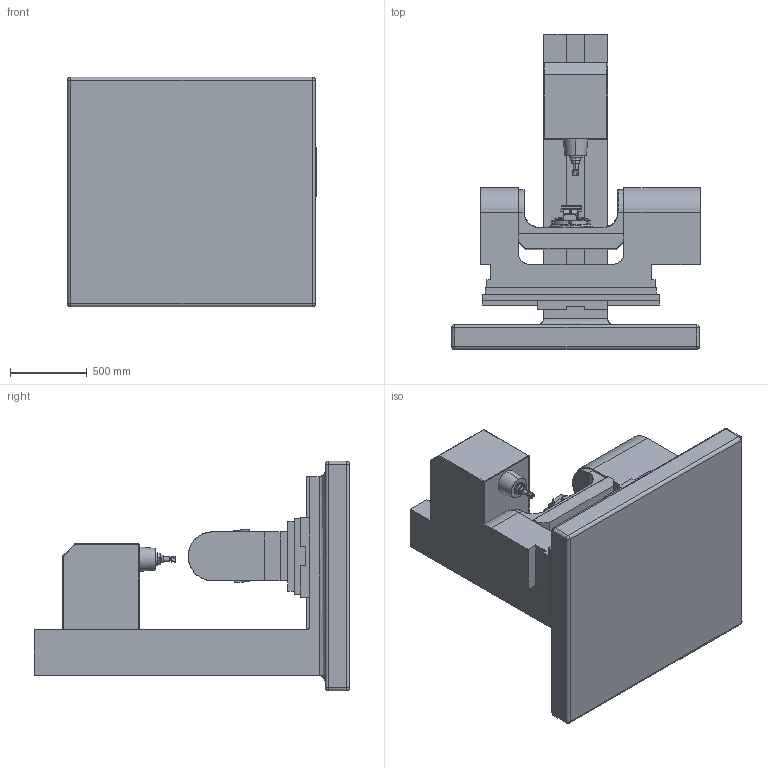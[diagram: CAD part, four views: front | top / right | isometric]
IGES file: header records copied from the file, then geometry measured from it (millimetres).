
Start section: SolidWorks IGES file using analytic representation for surfaces
Global section: file name: J:\Scolaire\BAC Pro\Epreuves professionnelles\E2\CD\Dossier Examinateurs\Dessins CN 5 axes\IGES\machine.IGS; native system: SolidWorks 2005 by SolidWorks Corporation; preprocessor: SolidWorks 2005 by SolidWorks Corporation; author: Famille Couzi; date: 091204.124225; units: millimetre
Bounding box: 1625.67 x 2060 x 1500 mm (x, y, z)
Surface area: 16427456.4 mm2 (no closed solid volume)
Topology: 0 solids, 0 shells, 672 faces, 8444 edges, 8405 vertices
Faces by surface type: bspline 405, revolution 267
